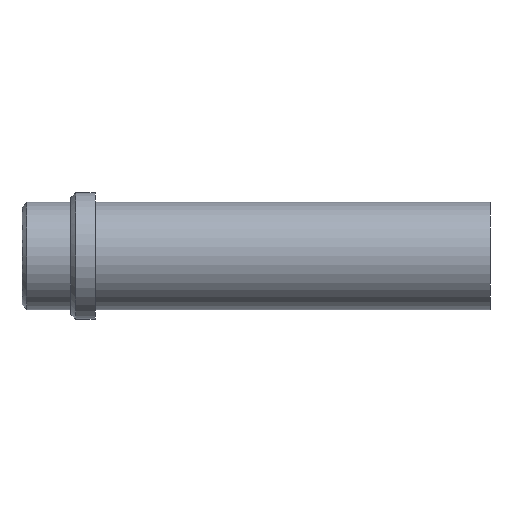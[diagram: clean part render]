
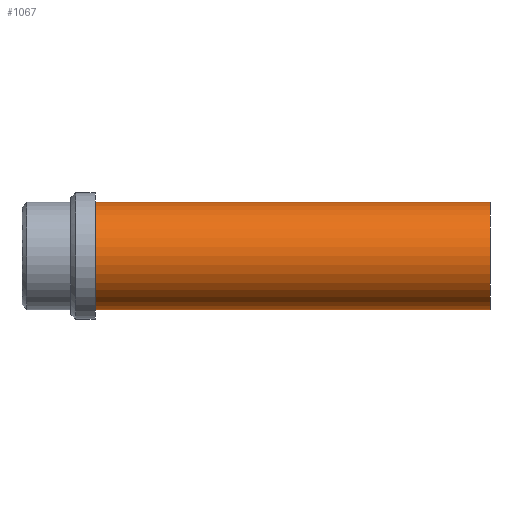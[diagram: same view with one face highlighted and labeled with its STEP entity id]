
A CAD part, front view. The second image highlights one B-rep face of the part: STEP entity #1067.
In plain terms, the highlighted cylindrical face has radius 11 mm (diameter 22 mm), a partial arc.
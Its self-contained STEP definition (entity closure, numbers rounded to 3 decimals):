
#953=CARTESIAN_POINT('Vertex',(0.,0.,-11.)) ;
#958=CARTESIAN_POINT('Axis2P3D Location',(0.,0.,0.)) ;
#962=CARTESIAN_POINT('Vertex',(0.,-11.,0.)) ;
#965=CARTESIAN_POINT('Axis2P3D Location',(0.,0.,0.)) ;
#969=CARTESIAN_POINT('Vertex',(0.,0.,11.)) ;
#995=CARTESIAN_POINT('Vertex',(81.,0.,11.)) ;
#998=CARTESIAN_POINT('Axis2P3D Location',(81.,0.,0.)) ;
#1002=CARTESIAN_POINT('Vertex',(81.,-11.,0.)) ;
#1005=CARTESIAN_POINT('Axis2P3D Location',(81.,0.,0.)) ;
#1009=CARTESIAN_POINT('Vertex',(81.,0.,-11.)) ;
#1035=CARTESIAN_POINT('Line Origine',(81.,0.,11.)) ;
#1040=CARTESIAN_POINT('Line Origine',(81.,0.,-11.)) ;
#1054=CARTESIAN_POINT('Axis2P3D Location',(81.,0.,0.)) ;
#959=DIRECTION('Axis2P3D Direction',(1.,0.,-0.)) ;
#966=DIRECTION('Axis2P3D Direction',(1.,0.,-0.)) ;
#999=DIRECTION('Axis2P3D Direction',(1.,0.,-0.)) ;
#1006=DIRECTION('Axis2P3D Direction',(1.,0.,-0.)) ;
#1036=DIRECTION('Vector Direction',(-1.,0.,0.)) ;
#1041=DIRECTION('Vector Direction',(-1.,0.,0.)) ;
#1055=DIRECTION('Axis2P3D Direction',(-1.,-0.,-0.)) ;
#1056=DIRECTION('Axis2P3D XDirection',(0.,0.,-1.)) ;
#960=AXIS2_PLACEMENT_3D('Circle Axis2P3D',#958,#959,$) ;
#967=AXIS2_PLACEMENT_3D('Circle Axis2P3D',#965,#966,$) ;
#1000=AXIS2_PLACEMENT_3D('Circle Axis2P3D',#998,#999,$) ;
#1007=AXIS2_PLACEMENT_3D('Circle Axis2P3D',#1005,#1006,$) ;
#1057=AXIS2_PLACEMENT_3D('Cylinder Axis2P3D',#1054,#1055,#1056) ;
#1060=ORIENTED_EDGE('',*,*,#1044,.T.) ;
#1061=ORIENTED_EDGE('',*,*,#1011,.F.) ;
#1062=ORIENTED_EDGE('',*,*,#1004,.F.) ;
#1063=ORIENTED_EDGE('',*,*,#1039,.T.) ;
#1064=ORIENTED_EDGE('',*,*,#971,.T.) ;
#1065=ORIENTED_EDGE('',*,*,#964,.T.) ;
#1037=VECTOR('Line Direction',#1036,1.) ;
#1042=VECTOR('Line Direction',#1041,1.) ;
#1067=ADVANCED_FACE('358-16X96',(#1066),#1058,.T.) ;
#961=CIRCLE('generated circle',#960,11.) ;
#968=CIRCLE('generated circle',#967,11.) ;
#1001=CIRCLE('generated circle',#1000,11.) ;
#1008=CIRCLE('generated circle',#1007,11.) ;
#1058=CYLINDRICAL_SURFACE('generated cylinder',#1057,11.) ;
#964=EDGE_CURVE('',#963,#954,#961,.T.) ;
#971=EDGE_CURVE('',#970,#963,#968,.T.) ;
#1004=EDGE_CURVE('',#996,#1003,#1001,.T.) ;
#1011=EDGE_CURVE('',#1003,#1010,#1008,.T.) ;
#1039=EDGE_CURVE('',#996,#970,#1038,.T.) ;
#1044=EDGE_CURVE('',#954,#1010,#1043,.F.) ;
#1059=EDGE_LOOP('',(#1060,#1061,#1062,#1063,#1064,#1065)) ;
#1066=FACE_OUTER_BOUND('',#1059,.T.) ;
#1038=LINE('Line',#1035,#1037) ;
#1043=LINE('Line',#1040,#1042) ;
#954=VERTEX_POINT('',#953) ;
#963=VERTEX_POINT('',#962) ;
#970=VERTEX_POINT('',#969) ;
#996=VERTEX_POINT('',#995) ;
#1003=VERTEX_POINT('',#1002) ;
#1010=VERTEX_POINT('',#1009) ;
